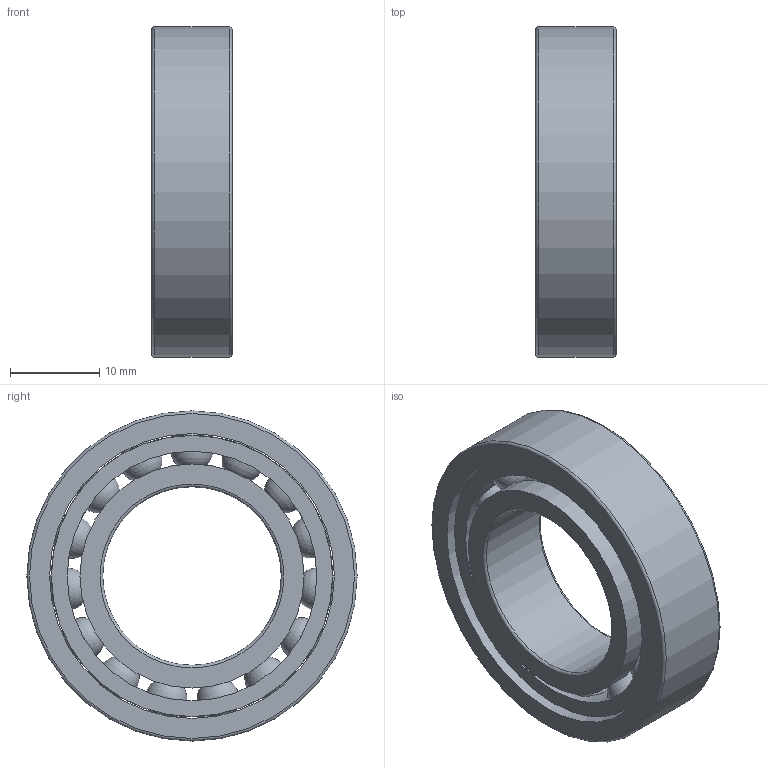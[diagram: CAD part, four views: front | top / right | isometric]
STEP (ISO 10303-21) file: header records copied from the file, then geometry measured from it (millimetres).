
FILE_DESCRIPTION(/* description */ (''),/* implementation_level */ '2;1');
FILE_NAME(/* name */ 'S_61904_TA.step',/* time_stamp */ '2013-03-06T14:46:46+01:00',/* author */ ('Marian'),/* organization */ ('GMN'),/* preprocessor_version */ 'ST-DEVELOPER v11',/* originating_system */ 'SIEMENS UGS NX 6.0',/* authorisation */ '');
FILE_SCHEMA (('CONFIG_CONTROL_DESIGN'));
Length unit declared in the file: millimetre
Products named in the file (1): S_61904_TA
Bounding box: 9 x 37 x 37 mm (x, y, z)
Volume: 5118.7 mm3; surface area: 6621.3 mm2
Topology: 18 solids, 18 shells, 50 faces, 124 edges, 80 vertices
Faces by surface type: cylinder 22, sphere 15, torus 6, plane 6, cone 1
Full cylindrical faces by diameter (mm): 4.962 x15, 20 x1, 25.1 x2, 27.962 x1, 31.5 x1, 31.9 x1, 37 x1
Entity records: 2808 total; most frequent: CARTESIAN_POINT 1876, DIRECTION 142, FACE_BOUND 115, EDGE_LOOP 100, ORIENTED_EDGE 100, AXIS2_PLACEMENT_3D 71, VERTEX_POINT 65, EDGE_CURVE 50
